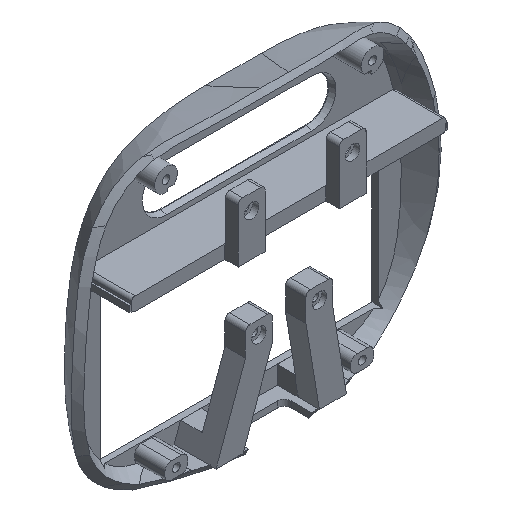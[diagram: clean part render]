
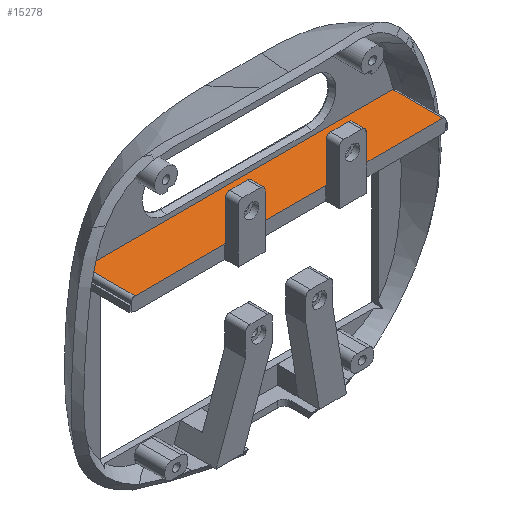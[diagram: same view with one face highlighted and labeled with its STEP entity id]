
A CAD part, isometric view. The second image highlights one B-rep face of the part: STEP entity #15278.
In plain terms, the highlighted planar face has unit normal (0, 0, 1).
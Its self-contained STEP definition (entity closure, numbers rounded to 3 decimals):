
#558 = VERTEX_POINT('',#559);
#559 = CARTESIAN_POINT('',(-68.5,12.665,91.02));
#566 = EDGE_CURVE('',#567,#558,#569,.T.);
#567 = VERTEX_POINT('',#568);
#568 = CARTESIAN_POINT('',(68.5,12.665,91.02));
#569 = LINE('',#570,#571);
#570 = CARTESIAN_POINT('',(-35.,12.665,91.02));
#571 = VECTOR('',#572,1.);
#572 = DIRECTION('',(-1.,0.,0.));
#5045 = VERTEX_POINT('',#5046);
#5046 = CARTESIAN_POINT('',(68.5,-9.475,91.02));
#5053 = EDGE_CURVE('',#5045,#567,#5054,.T.);
#5054 = LINE('',#5055,#5056);
#5055 = CARTESIAN_POINT('',(68.5,-9.475,91.02));
#5056 = VECTOR('',#5057,1.);
#5057 = DIRECTION('',(0.,1.,0.));
#8053 = EDGE_CURVE('',#8054,#5045,#8056,.T.);
#8054 = VERTEX_POINT('',#8055);
#8055 = CARTESIAN_POINT('',(28.5,-9.475,91.02));
#8056 = LINE('',#8057,#8058);
#8057 = CARTESIAN_POINT('',(-70.,-9.475,91.02));
#8058 = VECTOR('',#8059,1.);
#8059 = DIRECTION('',(1.,0.,0.));
#10139 = VERTEX_POINT('',#10140);
#10140 = CARTESIAN_POINT('',(-68.5,-9.475,91.02));
#10147 = EDGE_CURVE('',#10139,#558,#10148,.T.);
#10148 = LINE('',#10149,#10150);
#10149 = CARTESIAN_POINT('',(-68.5,-9.475,91.02));
#10150 = VECTOR('',#10151,1.);
#10151 = DIRECTION('',(0.,1.,0.));
#12559 = EDGE_CURVE('',#8054,#12560,#12562,.T.);
#12560 = VERTEX_POINT('',#12561);
#12561 = CARTESIAN_POINT('',(28.5,-9.625,91.02));
#12562 = LINE('',#12563,#12564);
#12563 = CARTESIAN_POINT('',(28.5,-10.113,91.02));
#12564 = VECTOR('',#12565,1.);
#12565 = DIRECTION('',(0.,-1.,0.));
#12669 = EDGE_CURVE('',#12670,#12672,#12674,.T.);
#12670 = VERTEX_POINT('',#12671);
#12671 = CARTESIAN_POINT('',(16.5,-9.475,91.02));
#12672 = VERTEX_POINT('',#12673);
#12673 = CARTESIAN_POINT('',(16.5,-9.625,91.02));
#12674 = LINE('',#12675,#12676);
#12675 = CARTESIAN_POINT('',(16.5,-10.113,91.02));
#12676 = VECTOR('',#12677,1.);
#12677 = DIRECTION('',(0.,-1.,0.));
#12711 = VERTEX_POINT('',#12712);
#12712 = CARTESIAN_POINT('',(-16.5,-9.475,91.02));
#12718 = EDGE_CURVE('',#12711,#12670,#12719,.T.);
#12719 = LINE('',#12720,#12721);
#12720 = CARTESIAN_POINT('',(-70.,-9.475,91.02));
#12721 = VECTOR('',#12722,1.);
#12722 = DIRECTION('',(1.,0.,0.));
#12733 = EDGE_CURVE('',#12711,#12734,#12736,.T.);
#12734 = VERTEX_POINT('',#12735);
#12735 = CARTESIAN_POINT('',(-16.5,-9.625,91.02));
#12736 = LINE('',#12737,#12738);
#12737 = CARTESIAN_POINT('',(-16.5,-10.113,91.02));
#12738 = VECTOR('',#12739,1.);
#12739 = DIRECTION('',(0.,-1.,0.));
#12826 = EDGE_CURVE('',#12827,#12829,#12831,.T.);
#12827 = VERTEX_POINT('',#12828);
#12828 = CARTESIAN_POINT('',(-28.5,-9.475,91.02));
#12829 = VERTEX_POINT('',#12830);
#12830 = CARTESIAN_POINT('',(-28.5,-9.625,91.02));
#12831 = LINE('',#12832,#12833);
#12832 = CARTESIAN_POINT('',(-28.5,-10.113,91.02));
#12833 = VECTOR('',#12834,1.);
#12834 = DIRECTION('',(0.,-1.,0.));
#12883 = EDGE_CURVE('',#10139,#12827,#12884,.T.);
#12884 = LINE('',#12885,#12886);
#12885 = CARTESIAN_POINT('',(-70.,-9.475,91.02));
#12886 = VECTOR('',#12887,1.);
#12887 = DIRECTION('',(1.,0.,0.));
#12963 = EDGE_CURVE('',#12672,#12560,#12964,.T.);
#12964 = LINE('',#12965,#12966);
#12965 = CARTESIAN_POINT('',(-45.3,-9.625,91.02));
#12966 = VECTOR('',#12967,1.);
#12967 = DIRECTION('',(1.,0.,0.));
#13014 = EDGE_CURVE('',#12829,#12734,#13015,.T.);
#13015 = LINE('',#13016,#13017);
#13016 = CARTESIAN_POINT('',(-45.3,-9.625,91.02));
#13017 = VECTOR('',#13018,1.);
#13018 = DIRECTION('',(1.,0.,0.));
#15278 = ADVANCED_FACE('',(#15279),#15293,.T.);
#15279 = FACE_BOUND('',#15280,.T.);
#15280 = EDGE_LOOP('',(#15281,#15282,#15283,#15284,#15285,#15286,#15287,
    #15288,#15289,#15290,#15291,#15292));
#15281 = ORIENTED_EDGE('',*,*,#10147,.F.);
#15282 = ORIENTED_EDGE('',*,*,#12883,.T.);
#15283 = ORIENTED_EDGE('',*,*,#12826,.T.);
#15284 = ORIENTED_EDGE('',*,*,#13014,.T.);
#15285 = ORIENTED_EDGE('',*,*,#12733,.F.);
#15286 = ORIENTED_EDGE('',*,*,#12718,.T.);
#15287 = ORIENTED_EDGE('',*,*,#12669,.T.);
#15288 = ORIENTED_EDGE('',*,*,#12963,.T.);
#15289 = ORIENTED_EDGE('',*,*,#12559,.F.);
#15290 = ORIENTED_EDGE('',*,*,#8053,.T.);
#15291 = ORIENTED_EDGE('',*,*,#5053,.T.);
#15292 = ORIENTED_EDGE('',*,*,#566,.T.);
#15293 = PLANE('',#15294);
#15294 = AXIS2_PLACEMENT_3D('',#15295,#15296,#15297);
#15295 = CARTESIAN_POINT('',(0.,2.328,
    91.02));
#15296 = DIRECTION('',(0.,0.,1.));
#15297 = DIRECTION('',(1.,0.,0.));
